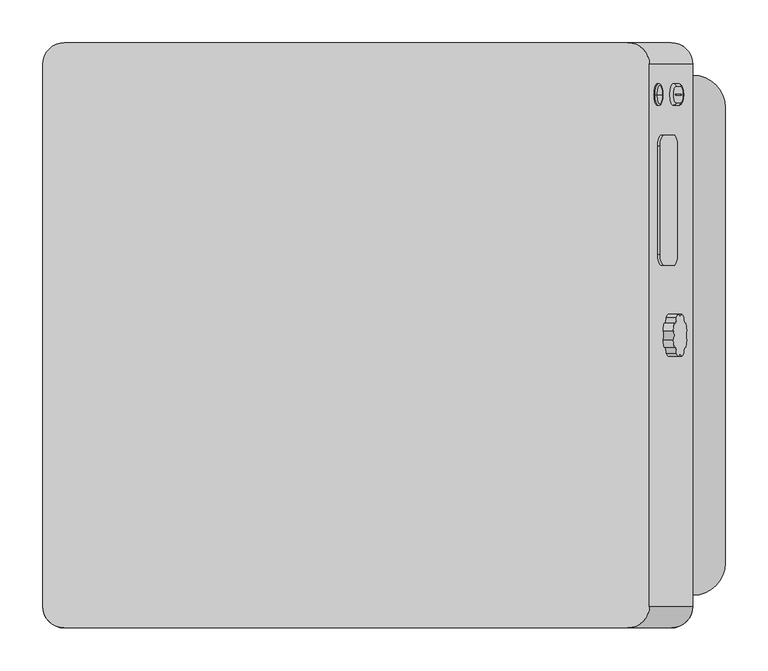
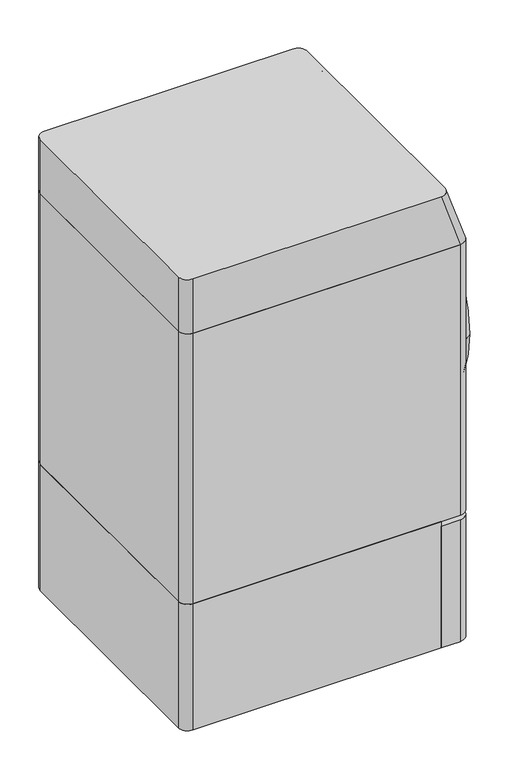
"""IFC4 building model written with IfcOpenShell, lengths in millimetres: proxy geometry, lavadora secadora : lavadora secadora."""

from ifc_helpers import new_model, si_unit, point, frame, frame_2d, origin, origin_with_axes, place, context, project, spatial, polyline, circle_curve, ellipse_curve, trimmed, segment, composite_curve, outline, extrude, source, transform, mapped, element, save
from ifc_brep_helpers import plane_surface, cylinder_surface, revolved_surface, extruded_surface, advanced_brep


def generic_models_fb84f55b(model_context):
    return source(origin(), model_context, "Body", "SolidModel", [
        extrude(outline(composite_curve([segment(polyline([(0.0, 0.0), (19.0499999, 0.0)]), True, "CONTINUOUS"), segment(trimmed(circle_curve(frame_2d((19.0499999, -0.5953125)), 0.5953125), [point((19.0499999, 0.0))], [point((19.0499999, -1.190625))], False, "CARTESIAN"), True, "CONTINUOUS"), segment(polyline([(19.0499999, -1.190625), (0.0, -1.190625)]), True, "CONTINUOUS"), segment(trimmed(circle_curve(frame_2d((0.0, -0.5953125)), 0.5953125), [point((0.0, -1.190625))], [point((0.0, 0.0))], False, "CARTESIAN"), True, "CONTINUOUS")], self_intersect=False)), frame((358.0172785, 282.6349595, 1186.6279667), z_axis=(0.9489499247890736, 0.0, 0.31542675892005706), x_axis=(0.31542675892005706, 0.0, -0.9489499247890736)), (0.0, 0.0, 1.0), 3.175),
        advanced_brep(
        [(358.0172785, 294.739647, 1186.6279667), (358.0172785, 269.339647, 1186.6279667), (361.0301945, 272.514647, 1187.6294467), (361.0301945, 291.564647, 1187.6294467), (367.0390743, 291.564647, 1169.5519506), (364.0261583, 294.739647, 1168.5504707), (364.0261583, 269.339647, 1168.5504707), (367.0390743, 272.514647, 1169.5519506), (361.0301945, 282.3373033, 1187.6294467), (367.0390743, 282.3373033, 1169.5519506), (367.0390743, 281.7419908, 1169.5519506), (361.0301945, 281.7419908, 1187.6294467), (358.0172785, 281.7419908, 1186.6279667), (358.0172785, 282.3373033, 1186.6279667), (364.0261583, 282.3373033, 1168.5504707), (364.0261583, 281.7419908, 1168.5504707)],
        [
            (0, 1, circle_curve(frame((358.0172785, 282.039647, 1186.6279667), z_axis=(0.9489499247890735, 0.0, 0.31542675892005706), x_axis=(0.0, -1.0, 0.0)), 12.7)),
            (1, 2, circle_curve(frame((358.0172785, 272.514647, 1186.6279667), z_axis=(-0.31542675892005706, 0.0, 0.9489499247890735), x_axis=(0.9489499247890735, 0.0, 0.31542675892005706)), 3.175)),
            (2, 3, circle_curve(frame((361.0301945, 282.039647, 1187.6294467), z_axis=(-0.9489499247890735, 0.0, -0.31542675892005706), x_axis=(0.0, -1.0, 0.0)), 9.525)),
            (3, 0, circle_curve(frame((358.0172785, 291.564647, 1186.6279667), z_axis=(-0.31542675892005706, 0.0, 0.9489499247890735), x_axis=(0.9489499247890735, 0.0, 0.31542675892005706)), 3.175)),
            (3, 4),
            (4, 5, circle_curve(frame((364.0261583, 291.564647, 1168.5504707), z_axis=(-0.31542675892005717, 0.0, 0.9489499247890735), x_axis=(0.9489499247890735, 0.0, 0.31542675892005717)), 3.175)),
            (5, 0),
            (6, 5, circle_curve(frame((364.0261583, 282.039647, 1168.5504707), z_axis=(0.9489499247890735, 0.0, 0.31542675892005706), x_axis=(0.0, 1.0, 0.0)), 12.7)),
            (4, 7, circle_curve(frame((367.0390743, 282.039647, 1169.5519506), z_axis=(-0.9489499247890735, 0.0, -0.31542675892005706), x_axis=(0.0, 1.0, 0.0)), 9.525)),
            (7, 6, circle_curve(frame((364.0261583, 272.514647, 1168.5504707), z_axis=(0.31542675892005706, 0.0, -0.9489499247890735), x_axis=(0.9489499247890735, 0.0, 0.31542675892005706)), 3.175)),
            (2, 7),
            (8, 9),
            (9, 10, circle_curve(frame((367.0390743, 282.039647, 1169.5519506), z_axis=(-0.9489499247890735, 0.0, -0.31542675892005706), x_axis=(0.0, 1.0, 0.0)), 0.2976563)),
            (10, 11),
            (11, 8, circle_curve(frame((361.0301945, 282.039647, 1187.6294467), z_axis=(-0.9489499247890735, 0.0, -0.31542675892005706), x_axis=(0.0, -1.0, 0.0)), 0.2976563)),
            (1, 6),
            (11, 12),
            (12, 13, circle_curve(frame((358.0172785, 282.039647, 1186.6279667), z_axis=(-0.9489499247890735, 0.0, -0.31542675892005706), x_axis=(0.0, -1.0, 0.0)), 0.2976563)),
            (13, 8),
            (13, 14),
            (14, 9),
            (14, 15, circle_curve(frame((364.0261583, 282.039647, 1168.5504707), z_axis=(-0.9489499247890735, 0.0, -0.31542675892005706), x_axis=(0.0, 1.0, 0.0)), 0.2976563)),
            (15, 10),
            (12, 15),
        ],
        [
            revolved_surface(trimmed(ellipse_curve(frame((358.0172785, 272.514647, 1186.6279667), z_axis=(0.31542675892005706, 0.0, -0.9489499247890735), x_axis=(0.9489499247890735, 0.0, 0.31542675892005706)), 3.175, 3.175), [point((361.0301945, 272.514647, 1187.6294467))], [point((358.0172785, 269.339647, 1186.6279667))], True, "CARTESIAN"), (8.7732657, 282.039647, 1070.5408011), (-0.9489499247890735, 0.0, -0.31542675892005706)),
            cylinder_surface(frame((358.0172785, 291.564647, 1186.6279667), z_axis=(-0.31542675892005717, 0.0, 0.9489499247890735), x_axis=(0.9489499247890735, 0.0, 0.31542675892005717)), 3.175),
            revolved_surface(trimmed(ellipse_curve(frame((364.0261583, 291.564647, 1168.5504707), z_axis=(-0.31542675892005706, 0.0, 0.9489499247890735), x_axis=(0.9489499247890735, 0.0, 0.31542675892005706)), 3.175, 3.175), [point((367.0390743, 291.564647, 1169.5519506))], [point((364.0261583, 294.739647, 1168.5504707))], True, "CARTESIAN"), (14.7821454, 282.039647, 1052.4633051), (-0.9489499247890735, 0.0, -0.31542675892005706)),
            plane_surface(frame((367.0390743, 281.7419908, 1169.5519506), z_axis=(0.9489499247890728, 0.0, 0.3154267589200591), x_axis=(-0.3154267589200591, 0.0, 0.9489499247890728))),
            cylinder_surface(frame((364.0261583, 272.514647, 1168.5504707), z_axis=(0.31542675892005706, 0.0, -0.9489499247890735), x_axis=(0.9489499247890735, 0.0, 0.31542675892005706)), 3.175),
            revolved_surface(polyline([(358.0172785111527, 281.7419907, 1186.6279666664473), (361.030194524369, 281.7419907, 1187.6294466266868)]), (8.7732657, 282.039647, 1070.5408011), (-0.9489499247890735, 0.0, -0.31542675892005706)),
            plane_surface(frame((358.0172785, 282.3373033, 1186.6279667), z_axis=(0.0, -1.0000000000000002, 0.0), x_axis=(0.3154267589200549, 0.0, -0.9489499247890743))),
            revolved_surface(polyline([(364.0261583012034, 282.33730330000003, 1168.5504706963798), (367.0390742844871, 282.33730330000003, 1169.5519506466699)]), (14.7821454, 282.039647, 1052.4633051), (-0.9489499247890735, 0.0, -0.31542675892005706)),
            plane_surface(frame((364.0261583, 269.339647, 1168.5504707), z_axis=(-0.9489499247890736, 0.0, -0.31542675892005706), x_axis=(-0.31542675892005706, 0.0, 0.9489499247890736))),
            plane_surface(frame((364.0261583, 281.7419908, 1168.5504707), z_axis=(0.0, 1.0, 0.0), x_axis=(-0.3154267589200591, 0.0, 0.9489499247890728))),
        ],
        [
            (0, [[1, 2, 3, 4]]),
            (1, [[-4, 5, 6, 7]]),
            (2, [[8, -6, 9, 10]]),
            (3, [[11, -9, -5, -3], [12, 13, 14, 15]]),
            (4, [[-10, -11, -2, 16]]),
            (5, [[-15, 17, 18, 19]]),
            (6, [[-19, 20, 21, -12]]),
            (7, [[-13, -21, 22, 23]]),
            (8, [[-7, -8, -16, -1], [24, -22, -20, -18]]),
            (9, [[-23, -24, -17, -14]]),
        ],
    ),
        advanced_brep(
        [(344.8918447, 282.039647, 1230.9734177), (336.8930612, 282.039647, 1255.0810817), (338.8966912, 282.039647, 1254.0757933), (345.897133, 282.039647, 1232.9770478), (343.3851157, 282.039647, 1230.4734937), (335.3863322, 282.039647, 1254.5811577), (339.3857239, 282.039647, 1242.5273257), (342.3991819, 282.039647, 1243.5271736)],
        [
            (0, 1, circle_curve(frame((340.8924529, 282.039647, 1243.0272497), z_axis=(0.9491206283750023, 0.0, 0.3149127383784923), x_axis=(-0.3149127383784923, 0.0, 0.9491206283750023)), 12.7)),
            (1, 2, circle_curve(frame((337.392232, 282.039647, 1253.5766224), z_axis=(0.0, 1.0, 0.0), x_axis=(0.9491206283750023, 0.0, 0.3149127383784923)), 1.5851085)),
            (2, 3, circle_curve(frame((342.3969121, 282.039647, 1243.5264205), z_axis=(-0.9491206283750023, 0.0, -0.3149127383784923), x_axis=(-0.3149127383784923, 0.0, 0.9491206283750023)), 11.1148915)),
            (3, 0, circle_curve(frame((344.3926738, 282.039647, 1232.4778769), z_axis=(0.0, 1.0, 0.0), x_axis=(0.9491206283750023, 0.0, 0.3149127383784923)), 1.5851085)),
            (1, 0, circle_curve(frame((340.8924529, 282.039647, 1243.0272497), z_axis=(0.9491206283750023, 0.0, 0.3149127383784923), x_axis=(-0.3149127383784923, 0.0, 0.9491206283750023)), 12.7)),
            (3, 2, circle_curve(frame((342.3969121, 282.039647, 1243.5264205), z_axis=(-0.9491206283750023, 0.0, -0.3149127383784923), x_axis=(-0.3149127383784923, 0.0, 0.9491206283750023)), 11.1148915)),
            (4, 5, circle_curve(frame((339.3857239, 282.039647, 1242.5273257), z_axis=(0.9491206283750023, 0.0, 0.3149127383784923), x_axis=(-0.3149127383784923, 0.0, 0.9491206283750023)), 12.7)),
            (5, 1),
            (0, 4),
            (5, 4, circle_curve(frame((339.3857239, 282.039647, 1242.5273257), z_axis=(0.9491206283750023, 0.0, 0.3149127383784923), x_axis=(-0.3149127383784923, 0.0, 0.9491206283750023)), 12.7)),
            (6, 5),
            (4, 6),
            (2, 7),
            (7, 3),
        ],
        [
            revolved_surface(trimmed(ellipse_curve(frame((337.392232, 282.039647, 1253.5766224), z_axis=(0.0, -1.0, 0.0), x_axis=(0.9491206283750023, 0.0, 0.3149127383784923)), 1.5851085, 1.5851085), [point((338.8966912, 282.039647, 1254.0757933))], [point((336.8930612, 282.039647, 1255.0810817))], True, "CARTESIAN"), (332.6969159, 282.039647, 1240.3080179), (-0.9491206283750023, 0.0, -0.3149127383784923)),
            cylinder_surface(frame((332.6969159, 282.039647, 1240.3080179), z_axis=(-0.9491206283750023, 0.0, -0.3149127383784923), x_axis=(-0.3149127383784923, 0.0, 0.9491206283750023)), 12.7),
            plane_surface(frame((339.3857239, 282.039647, 1242.5273257), z_axis=(-0.9491206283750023, 0.0, -0.3149127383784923), x_axis=(-0.3149127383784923, 0.0, 0.9491206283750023))),
            plane_surface(frame((342.3991819, 282.039647, 1243.5271736), z_axis=(0.9491206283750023, 0.0, 0.3149127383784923), x_axis=(-0.3149127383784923, 0.0, 0.9491206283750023))),
        ],
        [
            (0, [[1, 2, 3, 4]]),
            (0, [[5, -4, 6, -2]]),
            (1, [[7, 8, -1, 9]]),
            (1, [[10, -9, -5, -8]]),
            (2, [[11, -7, 12]]),
            (2, [[-12, -10, -11]]),
            (3, [[-3, 13, 14]]),
            (3, [[-6, -14, -13]]),
        ],
    ),
        advanced_brep(
        [(304.8, 342.9, 342.9), (304.8, -342.9, 342.9), (355.6, -342.9, 342.9), (381.0, -317.5, 342.9), (381.0, 317.5, 342.9), (355.6, 342.9, 342.9), (304.8, 342.9, 0.0), (355.6, 342.9, 0.0), (381.0, 317.5, 0.0), (381.0, -317.5, 0.0), (355.6, -342.9, 0.0), (304.8, -342.9, 0.0), (381.0, -50.8, 317.5), (381.0, 50.8, 317.5), (381.0, 50.8, 292.1), (381.0, -50.8, 292.1), (355.6, 50.8, 317.5), (355.6, -50.8, 317.5), (355.6, -50.8, 292.1), (355.6, 50.8, 292.1)],
        [
            (0, 1),
            (1, 2),
            (2, 3, circle_curve(frame((355.6, -317.5, 342.9), z_axis=(0.0, 0.0, 1.0), x_axis=(1.0, 0.0, 0.0)), 25.4)),
            (3, 4),
            (4, 5, circle_curve(frame((355.6, 317.5, 342.9), z_axis=(0.0, 0.0, 1.0), x_axis=(1.0, 0.0, 0.0)), 25.4)),
            (5, 0),
            (6, 7),
            (7, 8, circle_curve(frame((355.6, 317.5, 0.0), z_axis=(0.0, 0.0, -1.0), x_axis=(1.0, 0.0, 0.0)), 25.4)),
            (8, 9),
            (9, 10, circle_curve(frame((355.6, -317.5, 0.0), z_axis=(0.0, 0.0, -1.0), x_axis=(1.0, 0.0, 0.0)), 25.4)),
            (10, 11),
            (11, 6),
            (1, 11),
            (10, 2),
            (5, 7),
            (6, 0),
            (3, 9),
            (8, 4),
            (12, 13),
            (13, 14, circle_curve(frame((381.0, 50.8, 304.8), z_axis=(-1.0, 0.0, 0.0), x_axis=(0.0, -1.0, 0.0)), 12.7)),
            (14, 15),
            (15, 12, circle_curve(frame((381.0, -50.8, 304.8), z_axis=(-1.0, 0.0, 0.0), x_axis=(0.0, 1.0, 0.0)), 12.7)),
            (16, 17),
            (17, 18, circle_curve(frame((355.6, -50.8, 304.8), z_axis=(1.0, 0.0, 0.0), x_axis=(0.0, 1.0, 0.0)), 12.7)),
            (18, 19),
            (19, 16, circle_curve(frame((355.6, 50.8, 304.8), z_axis=(1.0, 0.0, 0.0), x_axis=(0.0, -1.0, 0.0)), 12.7)),
            (16, 13),
            (12, 17),
            (15, 18),
            (14, 19),
        ],
        [
            plane_surface(frame((304.8, -292.1, 342.9), z_axis=(0.0, 0.0, 1.0), x_axis=(0.0, -1.0, 0.0))),
            plane_surface(frame((304.8, -292.1, 0.0), z_axis=(0.0, 0.0, -1.0), x_axis=(0.0, 1.0, 0.0))),
            plane_surface(frame((304.8, -342.9, 342.9), z_axis=(0.0, -1.0, 0.0), x_axis=(0.0, 0.0, -1.0))),
            plane_surface(frame((355.6, 342.9, 342.9), z_axis=(0.0, 1.0, 0.0), x_axis=(0.0, 0.0, -1.0))),
            plane_surface(frame((381.0, -317.5, 342.9), z_axis=(1.0, 0.0, 0.0), x_axis=(0.0, 0.0, -1.0))),
            plane_surface(frame((304.8, 342.9, 342.9), z_axis=(-1.0, 0.0, 0.0), x_axis=(0.0, 0.0, -1.0))),
            cylinder_surface(frame((355.6, -317.5, 0.0), z_axis=(0.0, 0.0, 1.0), x_axis=(1.0, 0.0, 0.0)), 25.4),
            cylinder_surface(frame((355.6, 317.5, 0.0), z_axis=(0.0, 0.0, 1.0), x_axis=(1.0, 0.0, 0.0)), 25.4),
            plane_surface(frame((355.6, 0.0, 317.5), z_axis=(1.0, 0.0, 0.0), x_axis=(0.0, 1.0, 0.0))),
            plane_surface(frame((381.0, 50.8, 317.5), z_axis=(0.0, 0.0, -1.0), x_axis=(-1.0, 0.0, 0.0))),
            revolved_surface(polyline([(381.0, -38.099999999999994, 304.8), (355.6, -38.099999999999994, 304.8)]), (355.6, -50.8, 304.8), (1.0, 0.0, 0.0)),
            plane_surface(frame((381.0, -50.8, 292.1), z_axis=(0.0, 0.0, 1.0), x_axis=(-1.0, 0.0, 0.0))),
            revolved_surface(polyline([(381.0, 38.099999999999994, 304.8), (355.6, 38.099999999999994, 304.8)]), (355.6, 50.8, 304.8), (1.0, 0.0, 0.0)),
        ],
        [
            (0, [[1, 2, 3, 4, 5, 6]]),
            (1, [[7, 8, 9, 10, 11, 12]]),
            (2, [[-2, 13, -11, 14]]),
            (3, [[-6, 15, -7, 16]]),
            (4, [[-4, 17, -9, 18], [19, 20, 21, 22]]),
            (5, [[-1, -16, -12, -13]]),
            (6, [[-3, -14, -10, -17]]),
            (7, [[-5, -18, -8, -15]]),
            (8, [[23, 24, 25, 26]]),
            (9, [[-23, 27, -19, 28]]),
            (10, [[-24, -28, -22, 29]]),
            (11, [[-25, -29, -21, 30]]),
            (12, [[-26, -30, -20, -27]]),
        ],
    ),
        extrude(outline(composite_curve([segment(polyline([(-355.6, 342.9), (304.8, 342.9), (304.8, -342.9), (-355.6, -342.9)]), True, "CONTINUOUS"), segment(trimmed(circle_curve(frame_2d((-355.6, -317.5)), 25.4), [point((-355.6, -342.9))], [point((-381.0, -317.5))], False, "CARTESIAN"), True, "CONTINUOUS"), segment(polyline([(-381.0, -317.5), (-381.0, 317.5)]), True, "CONTINUOUS"), segment(trimmed(circle_curve(frame_2d((-355.6, 317.5)), 25.4), [point((-381.0, 317.5))], [point((-355.6, 342.9))], False, "CARTESIAN"), True, "CONTINUOUS")], self_intersect=False)), origin_with_axes(), (0.0, 0.0, 1.0), 355.6),
        extrude(outline(composite_curve([segment(trimmed(circle_curve(frame_2d((139.7, -12.6999999)), 12.7), [point((139.7, 0.0))], [point((152.4, -12.6999999))], False, "CARTESIAN"), True, "CONTINUOUS"), segment(polyline([(152.4, -12.6999999), (152.4, -50.8)]), True, "CONTINUOUS"), segment(trimmed(circle_curve(frame_2d((139.7, -50.8)), 12.7), [point((152.4, -50.8))], [point((139.7, -63.4999999))], False, "CARTESIAN"), True, "CONTINUOUS"), segment(polyline([(139.7, -63.4999999), (12.7, -63.4999999)]), True, "CONTINUOUS"), segment(trimmed(circle_curve(frame_2d((12.7, -50.8)), 12.7), [point((12.7, -63.4999999))], [point((0.0, -50.8))], False, "CARTESIAN"), True, "CONTINUOUS"), segment(polyline([(0.0, -50.8), (0.0, -12.6999999)]), True, "CONTINUOUS"), segment(trimmed(circle_curve(frame_2d((12.7, -12.6999999)), 12.7), [point((0.0, -12.6999999))], [point((12.7, 0.0))], False, "CARTESIAN"), True, "CONTINUOUS"), segment(polyline([(12.7, 0.0), (139.7, 0.0)]), True, "CONTINUOUS")], self_intersect=False)), frame((339.7309526, 82.014647, 1241.5274215), z_axis=(0.9480173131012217, 0.0, 0.31821875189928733), x_axis=(0.0, 1.0, 0.0)), (0.0, 0.0, 1.0), 3.175),
        extrude(outline(composite_curve([segment(trimmed(circle_curve(frame_2d((0.0, -22.1770467)), 25.4), [point((5.1874203, 2.6876003))], [point((6.3001953, 2.4292033))], False, "CARTESIAN"), True, "CONTINUOUS"), segment(trimmed(circle_curve(frame_2d((0.0, -22.1770467)), 25.4), [point((6.3001953, 2.4292033))], [point((13.9139006, -0.9270262))], False, "CARTESIAN"), True, "CONTINUOUS"), segment(trimmed(circle_curve(frame_2d((20.1716682, -2.0053785)), 6.35), [point((13.9139006, -0.9270262))], [point((21.2500206, -8.2631462))], True, "CARTESIAN"), True, "CONTINUOUS"), segment(trimmed(circle_curve(frame_2d((0.0, -22.1770467)), 25.4), [point((21.2500206, -8.2631462))], [point((24.8646471, -16.9896265))], False, "CARTESIAN"), True, "CONTINUOUS"), segment(trimmed(circle_curve(frame_2d((28.5270467, -22.1770467)), 6.35), [point((24.8646471, -16.9896265))], [point((24.8646471, -27.3644669))], True, "CARTESIAN"), True, "CONTINUOUS"), segment(trimmed(circle_curve(frame_2d((0.0, -22.1770467)), 25.4), [point((24.8646471, -27.3644669))], [point((21.2500206, -36.0909472))], False, "CARTESIAN"), True, "CONTINUOUS"), segment(trimmed(circle_curve(frame_2d((20.1716682, -42.3487149)), 6.35), [point((21.2500206, -36.0909472))], [point((13.9139006, -43.4270672))], True, "CARTESIAN"), True, "CONTINUOUS"), segment(trimmed(circle_curve(frame_2d((0.0, -22.1770467)), 25.4), [point((13.9139006, -43.4270672))], [point((5.1874203, -47.0416937))], False, "CARTESIAN"), True, "CONTINUOUS"), segment(trimmed(circle_curve(frame_2d((0.0, -50.7040934)), 6.35), [point((5.1874203, -47.0416937))], [point((-5.1874202, -47.0416937))], True, "CARTESIAN"), True, "CONTINUOUS"), segment(trimmed(circle_curve(frame_2d((0.0, -22.1770467)), 25.4), [point((-5.1874202, -47.0416937))], [point((-13.9139005, -43.4270672))], False, "CARTESIAN"), True, "CONTINUOUS"), segment(trimmed(circle_curve(frame_2d((-20.1716681, -42.3487149)), 6.35), [point((-13.9139005, -43.4270672))], [point((-21.2500205, -36.0909472))], True, "CARTESIAN"), True, "CONTINUOUS"), segment(trimmed(circle_curve(frame_2d((0.0, -22.1770467)), 25.4), [point((-21.2500205, -36.0909472))], [point((-24.864647, -27.3644669))], False, "CARTESIAN"), True, "CONTINUOUS"), segment(trimmed(circle_curve(frame_2d((-28.5270467, -22.1770467)), 6.35), [point((-24.864647, -27.3644669))], [point((-24.864647, -16.9896265))], True, "CARTESIAN"), True, "CONTINUOUS"), segment(trimmed(circle_curve(frame_2d((0.0, -22.1770467)), 25.4), [point((-24.864647, -16.9896265))], [point((-21.2500205, -8.2631462))], False, "CARTESIAN"), True, "CONTINUOUS"), segment(trimmed(circle_curve(frame_2d((-20.1716681, -2.0053785)), 6.35), [point((-21.2500205, -8.2631462))], [point((-13.9139005, -0.9270262))], True, "CARTESIAN"), True, "CONTINUOUS"), segment(trimmed(circle_curve(frame_2d((0.0, -22.1770467)), 25.4), [point((-13.9139005, -0.9270262))], [point((-5.1874202, 2.6876003))], False, "CARTESIAN"), True, "CONTINUOUS"), segment(trimmed(circle_curve(frame_2d((0.0, 6.35)), 6.35), [point((-5.1874202, 2.6876003))], [point((5.1874203, 2.6876003))], True, "CARTESIAN"), True, "CONTINUOUS")], self_intersect=False)), frame((354.0471433, -22.1770467, 1198.860669), z_axis=(0.9481460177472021, 0.0, 0.3178350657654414), x_axis=(-0.3178350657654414, 0.0, 0.9481460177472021)), (0.0, 0.0, 1.0), 12.7),
        advanced_brep(
        [(304.8, 342.9, 1270.0), (-355.6, 342.9, 1270.0), (-381.0, 317.5, 1270.0), (-381.0, -317.5, 1270.0), (-355.6, -342.9, 1270.0), (304.8, -342.9, 1270.0), (330.2, -317.5, 1270.0), (330.2, 317.5, 1270.0), (355.6, 342.9, 1117.6), (381.0, 317.5, 1117.6), (381.0, -317.5, 1117.6), (355.6, -342.9, 1117.6), (-355.6, -342.9, 1117.6), (-381.0, -317.5, 1117.6), (-381.0, 317.5, 1117.6), (-355.6, 342.9, 1117.6)],
        [
            (0, 1),
            (1, 2, circle_curve(frame((-355.6, 317.5, 1270.0), z_axis=(0.0, 0.0, 1.0), x_axis=(-1.0, 0.0, 0.0)), 25.4)),
            (2, 3),
            (3, 4, circle_curve(frame((-355.6, -317.5, 1270.0), z_axis=(0.0, 0.0, 1.0), x_axis=(0.0, -1.0, 0.0)), 25.4)),
            (4, 5),
            (5, 6, circle_curve(frame((304.8, -317.5, 1270.0), z_axis=(0.0, 0.0, 1.0), x_axis=(1.0, 0.0, 0.0)), 25.4)),
            (6, 7),
            (7, 0, circle_curve(frame((304.8, 317.5, 1270.0), z_axis=(0.0, 0.0, 1.0), x_axis=(1.0, 0.0, 0.0)), 25.4)),
            (8, 9, circle_curve(frame((355.6, 317.5, 1117.6), z_axis=(0.0, 0.0, -1.0), x_axis=(1.0, 0.0, 0.0)), 25.4)),
            (9, 10),
            (10, 11, circle_curve(frame((355.6, -317.5, 1117.6), z_axis=(0.0, 0.0, -1.0), x_axis=(1.0, 0.0, 0.0)), 25.4)),
            (11, 12),
            (12, 13, circle_curve(frame((-355.6, -317.5, 1117.6), z_axis=(0.0, 0.0, -1.0), x_axis=(0.0, -1.0, 0.0)), 25.4)),
            (13, 14),
            (14, 15, circle_curve(frame((-355.6, 317.5, 1117.6), z_axis=(0.0, 0.0, -1.0), x_axis=(-1.0, 0.0, 0.0)), 25.4)),
            (15, 8),
            (15, 1),
            (0, 8),
            (13, 3),
            (2, 14),
            (11, 5),
            (4, 12),
            (9, 7),
            (6, 10),
        ],
        [
            plane_surface(frame((-25.4, 0.0, 1270.0), z_axis=(0.0, 0.0, 1.0), x_axis=(-1.0, 0.0, 0.0))),
            plane_surface(frame((0.0, 0.0, 1117.6), z_axis=(0.0, 0.0, -1.0), x_axis=(-1.0, 0.0, 0.0))),
            plane_surface(frame((0.0, 342.9, 1117.6), z_axis=(0.0, 1.0, 0.0), x_axis=(-1.0, 0.0, 0.0))),
            plane_surface(frame((-381.0, 0.0, 1117.6), z_axis=(-1.0, 0.0, 0.0), x_axis=(0.0, -1.0, 0.0))),
            plane_surface(frame((0.0, -342.9, 1117.6), z_axis=(0.0, -1.0, 0.0), x_axis=(1.0, 0.0, 0.0))),
            plane_surface(frame((381.0, 0.0, 1117.6), z_axis=(0.9486832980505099, 0.0, 0.31622776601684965), x_axis=(0.0, 1.0, 0.0))),
            cylinder_surface(frame((-355.6, 317.5, 1117.6), z_axis=(0.0, 0.0, 1.0), x_axis=(-1.0, 0.0, 0.0)), 25.4),
            cylinder_surface(frame((-355.6, -317.5, 1117.6), z_axis=(0.0, 0.0, 1.0), x_axis=(0.0, -1.0, 0.0)), 25.4),
            extruded_surface(trimmed(circle_curve(frame((355.6, -317.5, 1117.6), z_axis=(0.0, 0.0, 1.0), x_axis=(1.0, 0.0, 0.0)), 25.4), [point((355.6, -342.9, 1117.6))], [point((381.0, -317.5, 1117.6))], True, "CARTESIAN"), (-50.80000000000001, 0.0, 152.4000000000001), 160.64370513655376),
            extruded_surface(trimmed(circle_curve(frame((355.6, 317.5, 1117.6), z_axis=(0.0, 0.0, 1.0), x_axis=(1.0, 0.0, 0.0)), 25.4), [point((381.0, 317.5, 1117.6))], [point((355.6, 342.9, 1117.6))], True, "CARTESIAN"), (-50.80000000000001, 0.0, 152.4000000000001), 160.64370513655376),
        ],
        [
            (0, [[1, 2, 3, 4, 5, 6, 7, 8]]),
            (1, [[9, 10, 11, 12, 13, 14, 15, 16]]),
            (2, [[-16, 17, -1, 18]]),
            (3, [[-14, 19, -3, 20]]),
            (4, [[-12, 21, -5, 22]]),
            (5, [[-10, 23, -7, 24]]),
            (6, [[-15, -20, -2, -17]]),
            (7, [[-13, -22, -4, -19]]),
            (8, [[-11, -24, -6, -21]]),
            (9, [[-9, -18, -8, -23]]),
        ],
    ),
        extrude(outline(composite_curve([segment(trimmed(circle_curve(frame_2d((0.0, 812.8)), 209.55), [point((-209.55, 812.8))], [point((209.55, 812.8))], False, "CARTESIAN"), True, "CONTINUOUS"), segment(trimmed(circle_curve(frame_2d((0.0, 812.8)), 209.55), [point((209.55, 812.8))], [point((-209.55, 812.8))], False, "CARTESIAN"), True, "CONTINUOUS")], self_intersect=False)), frame((388.9375, 0.0, 0.0), z_axis=(1.0, 0.0, 0.0), x_axis=(0.0, 1.0, 0.0)), (0.0, 0.0, 1.0), 3.175),
        advanced_brep(
        [(381.0, -304.8, 812.8), (381.0, 304.8, 812.8), (419.1, 266.7, 812.8), (419.1, -266.7, 812.8), (381.0, -209.55, 812.8), (381.0, 209.55, 812.8), (400.05, -209.55, 812.8), (400.05, 209.55, 812.8), (400.05, -228.6, 812.8), (400.05, 228.6, 812.8)],
        [
            (0, 1, circle_curve(frame((381.0, 0.0, 812.8), z_axis=(1.0, 0.0, 0.0), x_axis=(0.0, 1.0, 0.0)), 304.8)),
            (1, 2, circle_curve(frame((381.0, 266.7, 812.8), z_axis=(0.0, 0.0, -1.0), x_axis=(1.0, 0.0, 0.0)), 38.1)),
            (2, 3, circle_curve(frame((419.1, 0.0, 812.8), z_axis=(-1.0, 0.0, 0.0), x_axis=(0.0, 1.0, 0.0)), 266.7)),
            (3, 0, circle_curve(frame((381.0, -266.7, 812.8), z_axis=(0.0, 0.0, -1.0), x_axis=(1.0, 0.0, 0.0)), 38.1)),
            (1, 0, circle_curve(frame((381.0, 0.0, 812.8), z_axis=(1.0, 0.0, 0.0), x_axis=(0.0, 1.0, 0.0)), 304.8)),
            (3, 2, circle_curve(frame((419.1, 0.0, 812.8), z_axis=(-1.0, 0.0, 0.0), x_axis=(0.0, 1.0, 0.0)), 266.7)),
            (4, 5, circle_curve(frame((381.0, 0.0, 812.8), z_axis=(1.0, 0.0, 0.0), x_axis=(0.0, 1.0, 0.0)), 209.55)),
            (5, 1),
            (0, 4),
            (5, 4, circle_curve(frame((381.0, 0.0, 812.8), z_axis=(1.0, 0.0, 0.0), x_axis=(0.0, 1.0, 0.0)), 209.55)),
            (6, 7, circle_curve(frame((400.05, 0.0, 812.8), z_axis=(1.0, 0.0, 0.0), x_axis=(0.0, 1.0, 0.0)), 209.55)),
            (7, 5),
            (4, 6),
            (7, 6, circle_curve(frame((400.05, 0.0, 812.8), z_axis=(1.0, 0.0, 0.0), x_axis=(0.0, 1.0, 0.0)), 209.55)),
            (8, 9, circle_curve(frame((400.05, 0.0, 812.8), z_axis=(1.0, 0.0, 0.0), x_axis=(0.0, 1.0, 0.0)), 228.6)),
            (9, 7),
            (6, 8),
            (9, 8, circle_curve(frame((400.05, 0.0, 812.8), z_axis=(1.0, 0.0, 0.0), x_axis=(0.0, 1.0, 0.0)), 228.6)),
            (2, 9, circle_curve(frame((371.475, 266.7, 812.8), z_axis=(0.0, 0.0, -1.0), x_axis=(1.0, 0.0, 0.0)), 47.625)),
            (8, 3, circle_curve(frame((371.475, -266.7, 812.8), z_axis=(0.0, 0.0, -1.0), x_axis=(1.0, 0.0, 0.0)), 47.625)),
        ],
        [
            revolved_surface(trimmed(ellipse_curve(frame((381.0, 266.7, 812.8), z_axis=(0.0, 0.0, 1.0), x_axis=(1.0, 0.0, 0.0)), 38.1, 38.1), [point((419.1, 266.7, 812.8))], [point((381.0, 304.8, 812.8))], True, "CARTESIAN"), (0.0, 0.0, 812.8), (-1.0, 0.0, 0.0)),
            plane_surface(frame((381.0, 0.0, 812.8), z_axis=(-1.0, 0.0, 0.0), x_axis=(0.0, 1.0, 0.0))),
            revolved_surface(polyline([(381.0, 209.55, 812.8), (400.05, 209.55, 812.8)]), (0.0, 0.0, 812.8), (-1.0, 0.0, 0.0)),
            plane_surface(frame((400.05, 0.0, 812.8), z_axis=(1.0, 0.0, 0.0), x_axis=(0.0, 1.0, 0.0))),
            revolved_surface(trimmed(ellipse_curve(frame((371.475, 266.7, 812.8), z_axis=(0.0, 0.0, 1.0), x_axis=(1.0, 0.0, 0.0)), 47.625, 47.625), [point((400.05, 228.6, 812.8))], [point((419.1, 266.7, 812.8))], True, "CARTESIAN"), (0.0, 0.0, 812.8), (-1.0, 0.0, 0.0)),
        ],
        [
            (0, [[1, 2, 3, 4]]),
            (0, [[5, -4, 6, -2]]),
            (1, [[7, 8, -1, 9]]),
            (1, [[10, -9, -5, -8]]),
            (2, [[11, 12, -7, 13]]),
            (2, [[14, -13, -10, -12]]),
            (3, [[15, 16, -11, 17]]),
            (3, [[18, -17, -14, -16]]),
            (4, [[-3, 19, -15, 20]]),
            (4, [[-6, -20, -18, -19]]),
        ],
    ),
        advanced_brep(
        [(-355.6, 342.9, 1117.6), (-381.0, 317.5, 1117.6), (-381.0, -317.5, 1117.6), (-355.6, -342.9, 1117.6), (355.6, -342.9, 1117.6), (381.0, -317.5, 1117.6), (381.0, 317.5, 1117.6), (355.6, 342.9, 1117.6), (-355.6, 342.9, 355.6), (355.6, 342.9, 355.6), (381.0, 317.5, 355.6), (381.0, -317.5, 355.6), (355.6, -342.9, 355.6), (-355.6, -342.9, 355.6), (-381.0, -317.5, 355.6), (-381.0, 317.5, 355.6), (381.0, 279.4, 812.8), (381.0, -279.4, 812.8), (-332.3740699, -279.4, 812.8), (-332.3740699, 279.4, 812.8)],
        [
            (0, 1, circle_curve(frame((-355.6, 317.5, 1117.6), z_axis=(0.0, 0.0, 1.0), x_axis=(1.0, 0.0, 0.0)), 25.4)),
            (1, 2),
            (2, 3, circle_curve(frame((-355.6, -317.5, 1117.6), z_axis=(0.0, 0.0, 1.0), x_axis=(1.0, 0.0, 0.0)), 25.4)),
            (3, 4),
            (4, 5, circle_curve(frame((355.6, -317.5, 1117.6), z_axis=(0.0, 0.0, 1.0), x_axis=(1.0, 0.0, 0.0)), 25.4)),
            (5, 6),
            (6, 7, circle_curve(frame((355.6, 317.5, 1117.6), z_axis=(0.0, 0.0, 1.0), x_axis=(1.0, 0.0, 0.0)), 25.4)),
            (7, 0),
            (8, 9),
            (9, 10, circle_curve(frame((355.6, 317.5, 355.6), z_axis=(0.0, 0.0, -1.0), x_axis=(1.0, 0.0, 0.0)), 25.4)),
            (10, 11),
            (11, 12, circle_curve(frame((355.6, -317.5, 355.6), z_axis=(0.0, 0.0, -1.0), x_axis=(1.0, 0.0, 0.0)), 25.4)),
            (12, 13),
            (13, 14, circle_curve(frame((-355.6, -317.5, 355.6), z_axis=(0.0, 0.0, -1.0), x_axis=(1.0, 0.0, 0.0)), 25.4)),
            (14, 15),
            (15, 8, circle_curve(frame((-355.6, 317.5, 355.6), z_axis=(0.0, 0.0, -1.0), x_axis=(1.0, 0.0, 0.0)), 25.4)),
            (1, 15),
            (14, 2),
            (3, 13),
            (12, 4),
            (7, 9),
            (8, 0),
            (5, 11),
            (10, 6),
            (16, 17, circle_curve(frame((381.0, 0.0, 812.8), z_axis=(-1.0, 0.0, 0.0), x_axis=(0.0, 1.0, 0.0)), 279.4)),
            (17, 16, circle_curve(frame((381.0, 0.0, 812.8), z_axis=(-1.0, 0.0, 0.0), x_axis=(0.0, 1.0, 0.0)), 279.4)),
            (18, 19, circle_curve(frame((-332.3740699, 0.0, 812.8), z_axis=(1.0, 0.0, 0.0), x_axis=(0.0, 1.0, 0.0)), 279.4)),
            (19, 18, circle_curve(frame((-332.3740699, 0.0, 812.8), z_axis=(1.0, 0.0, 0.0), x_axis=(0.0, 1.0, 0.0)), 279.4)),
            (18, 17),
            (16, 19),
        ],
        [
            plane_surface(frame((-330.2, 317.5, 1117.6), z_axis=(0.0, 0.0, 1.0), x_axis=(0.0, 1.0, 0.0))),
            plane_surface(frame((-330.2, 317.5, 355.6), z_axis=(0.0, 0.0, -1.0), x_axis=(0.0, -1.0, 0.0))),
            plane_surface(frame((-381.0, 317.5, 1117.6), z_axis=(-1.0, 0.0, 0.0), x_axis=(0.0, 0.0, -1.0))),
            plane_surface(frame((-355.6, -342.9, 1117.6), z_axis=(0.0, -1.0, 0.0), x_axis=(0.0, 0.0, -1.0))),
            plane_surface(frame((355.6, 342.9, 1117.6), z_axis=(0.0, 1.0, 0.0), x_axis=(0.0, 0.0, -1.0))),
            plane_surface(frame((381.0, -317.5, 1117.6), z_axis=(1.0, 0.0, 0.0), x_axis=(0.0, 0.0, -1.0))),
            plane_surface(frame((-332.3740699, 279.4, 812.8), z_axis=(1.0, 0.0, 0.0), x_axis=(0.0, 0.0, -1.0))),
            revolved_surface(polyline([(381.0, 279.4, 812.8), (-332.3740699, 279.4, 812.8)]), (-332.3740699, 0.0, 812.8), (1.0, 0.0, 0.0)),
            cylinder_surface(frame((-355.6, 317.5, 355.6), z_axis=(0.0, 0.0, 1.0), x_axis=(1.0, 0.0, 0.0)), 25.4),
            cylinder_surface(frame((-355.6, -317.5, 355.6), z_axis=(0.0, 0.0, 1.0), x_axis=(1.0, 0.0, 0.0)), 25.4),
            cylinder_surface(frame((355.6, -317.5, 355.6), z_axis=(0.0, 0.0, 1.0), x_axis=(1.0, 0.0, 0.0)), 25.4),
            cylinder_surface(frame((355.6, 317.5, 355.6), z_axis=(0.0, 0.0, 1.0), x_axis=(1.0, 0.0, 0.0)), 25.4),
        ],
        [
            (0, [[1, 2, 3, 4, 5, 6, 7, 8]]),
            (1, [[9, 10, 11, 12, 13, 14, 15, 16]]),
            (2, [[-2, 17, -15, 18]]),
            (3, [[-4, 19, -13, 20]]),
            (4, [[-8, 21, -9, 22]]),
            (5, [[-6, 23, -11, 24], [25, 26]]),
            (6, [[27, 28]]),
            (7, [[-27, 29, -25, 30]]),
            (7, [[-28, -30, -26, -29]]),
            (8, [[-1, -22, -16, -17]]),
            (9, [[-3, -18, -14, -19]]),
            (10, [[-5, -20, -12, -23]]),
            (11, [[-7, -24, -10, -21]]),
        ],
    ),
    ])


if __name__ == "__main__":
    model = new_model("IFC4")
    model_context = context("Model", 3, world=origin())
    ifc_project = project(units=[si_unit("LENGTHUNIT", "METRE", prefix="MILLI")], contexts=[model_context])
    site = spatial("IfcSite", under=ifc_project)
    building = spatial("IfcBuilding", under=site)
    placement = place(None, origin())
    generic_models_shape = generic_models_fb84f55b(model_context)
    element("IfcBuildingElementProxy", 1, Name="lavadora secadora : lavadora secadora", ObjectType="lavadora secadora : lavadora secadora", at=placement, inside=building, context=model_context, shape_type="MappedRepresentation", body=[
        mapped(generic_models_shape, transform((0.0, 0.0, 0.0), x_axis=(1.0, 0.0, 0.0), y_axis=(0.0, 1.0, 0.0), z_axis=(0.0, 0.0, 1.0))),
    ])
    save(model, "model.ifc")
